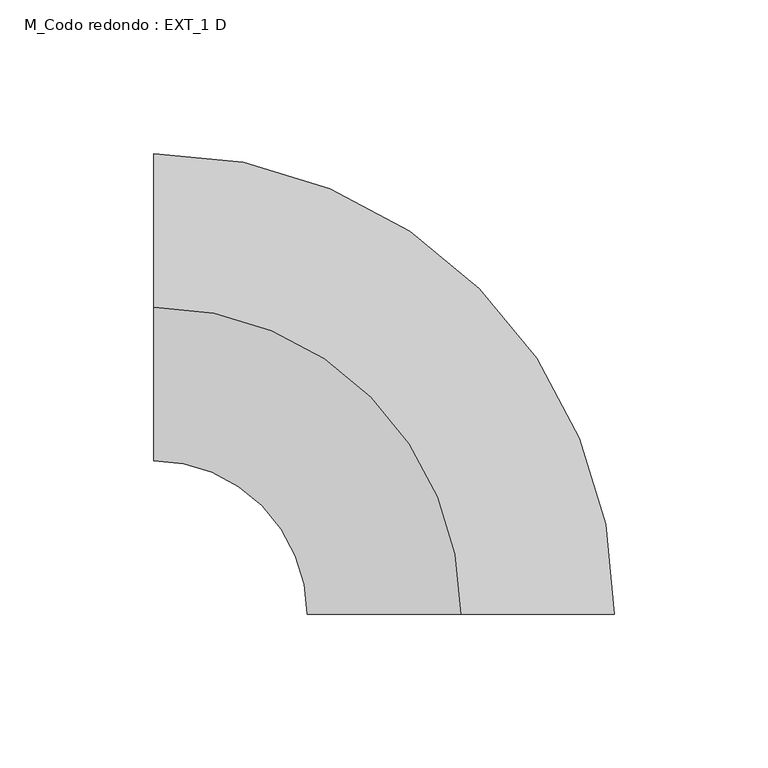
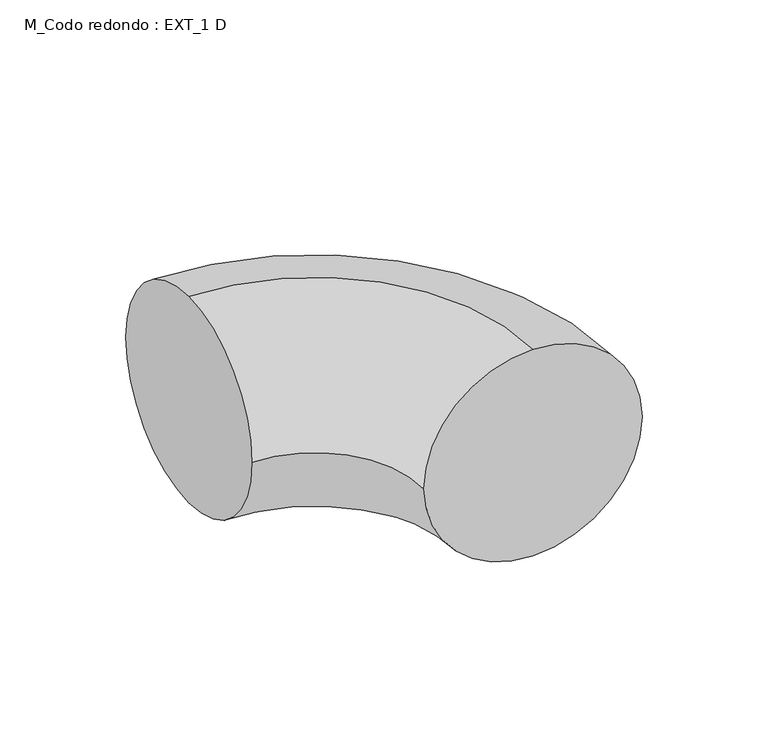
"""IFC4 building model written with IfcOpenShell, lengths in millimetres: duct fitting geometry, M_Codo redondo : EXT_1 D."""

from ifc_helpers import new_model, si_unit, point, frame, origin, place, context, project, spatial, circle_curve, ellipse_curve, trimmed, source, transform, mapped, element, save
from ifc_brep_helpers import plane_surface, revolved_surface, advanced_brep


def m_codo_redondo_ext_1_d_96ea52f9(model_context):
    return source(origin(), model_context, "Body", "AdvancedBrep", [
        advanced_brep(
        [(-100.0, 0.0, 50.0), (-100.0, 50.0, 0.0), (-100.0, 0.0, -50.0), (-100.0, -50.0, 0.0), (0.0, -100.0, 50.0), (-50.0, -100.0, 0.0), (0.0, -100.0, -50.0), (50.0, -100.0, 0.0)],
        [
            (0, 1, circle_curve(frame((-100.0, 0.0, 0.0), z_axis=(-1.0, 0.0, 0.0), x_axis=(0.0, -1.0, 0.0)), 50.0)),
            (1, 2, circle_curve(frame((-100.0, 0.0, 0.0), z_axis=(-1.0, 0.0, 0.0), x_axis=(0.0, -1.0, 0.0)), 50.0)),
            (2, 3, circle_curve(frame((-100.0, 0.0, 0.0), z_axis=(-1.0, 0.0, 0.0), x_axis=(0.0, -1.0, 0.0)), 50.0)),
            (3, 0, circle_curve(frame((-100.0, 0.0, 0.0), z_axis=(-1.0, 0.0, 0.0), x_axis=(0.0, -1.0, 0.0)), 50.0)),
            (4, 5, circle_curve(frame((0.0, -100.0, 0.0), z_axis=(0.0, -1.0, 0.0), x_axis=(-1.0, 0.0, 0.0)), 50.0)),
            (5, 6, circle_curve(frame((0.0, -100.0, 0.0), z_axis=(0.0, -1.0, 0.0), x_axis=(-1.0, 0.0, 0.0)), 50.0)),
            (6, 7, circle_curve(frame((0.0, -100.0, 0.0), z_axis=(0.0, -1.0, 0.0), x_axis=(-1.0, 0.0, 0.0)), 50.0)),
            (7, 4, circle_curve(frame((0.0, -100.0, 0.0), z_axis=(0.0, -1.0, 0.0), x_axis=(-1.0, 0.0, 0.0)), 50.0)),
            (4, 0, circle_curve(frame((-100.0, -100.0, 50.0), z_axis=(0.0, 0.0, 1.0), x_axis=(0.0, 1.0, 0.0)), 100.0)),
            (3, 5, circle_curve(frame((-100.0, -100.0, 0.0), z_axis=(0.0, 0.0, -1.0), x_axis=(0.0, 1.0, 0.0)), 50.0)),
            (2, 6, circle_curve(frame((-100.0, -100.0, -50.0), z_axis=(0.0, 0.0, -1.0), x_axis=(0.0, 1.0, 0.0)), 100.0)),
            (1, 7, circle_curve(frame((-100.0, -100.0, 0.0), z_axis=(0.0, 0.0, -1.0), x_axis=(0.0, 1.0, 0.0)), 150.0)),
        ],
        [
            plane_surface(frame((-100.0, 0.0, 0.0), z_axis=(-1.0, 0.0, 0.0), x_axis=(0.0, 0.0, 1.0))),
            plane_surface(frame((0.0, -100.0, 0.0), z_axis=(0.0, -1.0, 0.0), x_axis=(0.0, 0.0, 1.0))),
            revolved_surface(trimmed(ellipse_curve(frame((-100.0, 0.0, 0.0), z_axis=(1.0, 0.0, 0.0), x_axis=(0.0, -1.0, 0.0)), 50.0, 50.0), [point((-100.0, 0.0, 50.0))], [point((-100.0, -50.0, 0.0))], True, "CARTESIAN"), (-100.0, -100.0, 0.0), (0.0, 0.0, 1.0)),
            revolved_surface(trimmed(ellipse_curve(frame((-100.0, 0.0, 0.0), z_axis=(1.0, 0.0, 0.0), x_axis=(0.0, -1.0, 0.0)), 50.0, 50.0), [point((-100.0, -50.0, 0.0))], [point((-100.0, 0.0, -50.0))], True, "CARTESIAN"), (-100.0, -100.0, 0.0), (0.0, 0.0, 1.0)),
            revolved_surface(trimmed(ellipse_curve(frame((-100.0, 0.0, 0.0), z_axis=(1.0, 0.0, 0.0), x_axis=(0.0, -1.0, 0.0)), 50.0, 50.0), [point((-100.0, 0.0, -50.0))], [point((-100.0, 50.0, 0.0))], True, "CARTESIAN"), (-100.0, -100.0, 0.0), (0.0, 0.0, 1.0)),
            revolved_surface(trimmed(ellipse_curve(frame((-100.0, 0.0, 0.0), z_axis=(1.0, 0.0, 0.0), x_axis=(0.0, -1.0, 0.0)), 50.0, 50.0), [point((-100.0, 50.0, 0.0))], [point((-100.0, 0.0, 50.0))], True, "CARTESIAN"), (-100.0, -100.0, 0.0), (0.0, 0.0, 1.0)),
        ],
        [
            (0, [[1, 2, 3, 4]]),
            (1, [[5, 6, 7, 8]]),
            (2, [[-5, 9, -4, 10]]),
            (3, [[-6, -10, -3, 11]]),
            (4, [[-7, -11, -2, 12]]),
            (5, [[-8, -12, -1, -9]]),
        ],
    ),
    ])


if __name__ == "__main__":
    model = new_model("IFC4")
    model_context = context("Model", 3, world=origin())
    ifc_project = project(units=[si_unit("LENGTHUNIT", "METRE", prefix="MILLI")], contexts=[model_context])
    site = spatial("IfcSite", under=ifc_project)
    building = spatial("IfcBuilding", under=site)
    placement = place(None, origin())
    m_codo_redondo_ext_1_d_shape = m_codo_redondo_ext_1_d_96ea52f9(model_context)
    element("IfcDuctFitting", 1, ObjectType="M_Codo redondo : EXT_1 D", at=placement, inside=building, context=model_context, shape_type="MappedRepresentation", body=[
        mapped(m_codo_redondo_ext_1_d_shape, transform((0.0, 0.0, 0.0), x_axis=(1.0, 0.0, 0.0), y_axis=(0.0, 1.0, 0.0), z_axis=(0.0, 0.0, 1.0))),
    ])
    save(model, "model.ifc")
